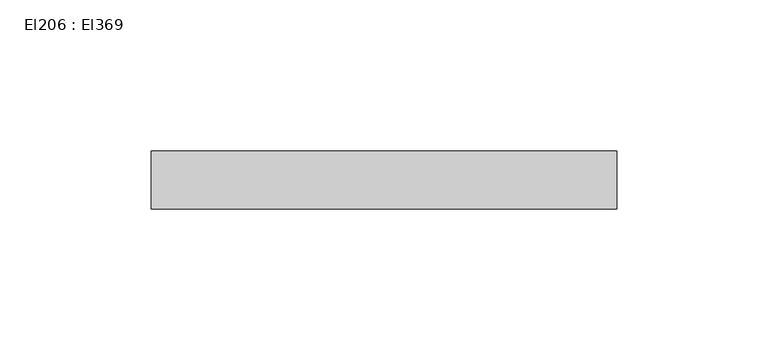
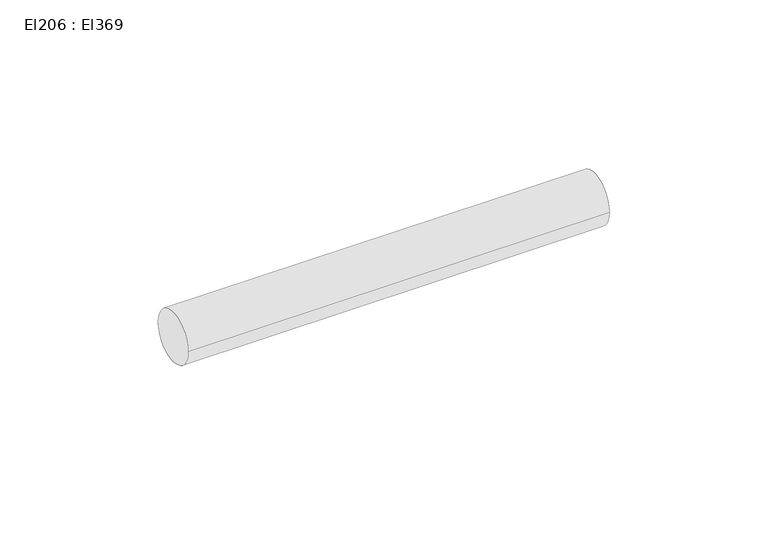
"""IFC4 building model written with IfcOpenShell, lengths in millimetres: cable carrier segment geometry, El206 : El369."""

from ifc_helpers import new_model, si_unit, point, frame, frame_2d, origin, place, context, project, spatial, circle_curve, trimmed, segment, composite_curve, outline, extrude, source, transform, mapped, element, save


def el206_el369_4d8f8159(model_context):
    return source(origin(), model_context, "Body", "SweptSolid", [
        extrude(outline(composite_curve([segment(trimmed(circle_curve(frame_2d((66.0121745, 2700.0)), 9.5), [point((56.5121745, 2700.0))], [point((75.5121745, 2700.0))], False, "CARTESIAN"), True, "CONTINUOUS"), segment(trimmed(circle_curve(frame_2d((66.0121745, 2700.0)), 9.5), [point((75.5121745, 2700.0))], [point((56.5121745, 2700.0))], False, "CARTESIAN"), True, "CONTINUOUS")], self_intersect=False)), frame((9684.9137511, 0.0, 0.0), z_axis=(1.0, 0.0, 0.0), x_axis=(0.0, 1.0, 0.0)), (0.0, 0.0, 1.0), 153.522),
    ])


if __name__ == "__main__":
    model = new_model("IFC4")
    model_context = context("Model", 3, world=origin())
    ifc_project = project(units=[si_unit("LENGTHUNIT", "METRE", prefix="MILLI")], contexts=[model_context])
    site = spatial("IfcSite", under=ifc_project)
    building = spatial("IfcBuilding", under=site)
    placement = place(None, origin())
    el206_el369_shape = el206_el369_4d8f8159(model_context)
    element("IfcCableCarrierSegment", 1, ObjectType="El206 : El369", at=placement, inside=building, context=model_context, shape_type="MappedRepresentation", body=[
        mapped(el206_el369_shape, transform((0.0, 0.0, 0.0), x_axis=(1.0, 0.0, 0.0), y_axis=(0.0, 1.0, 0.0), z_axis=(0.0, 0.0, 1.0))),
    ])
    save(model, "model.ifc")
